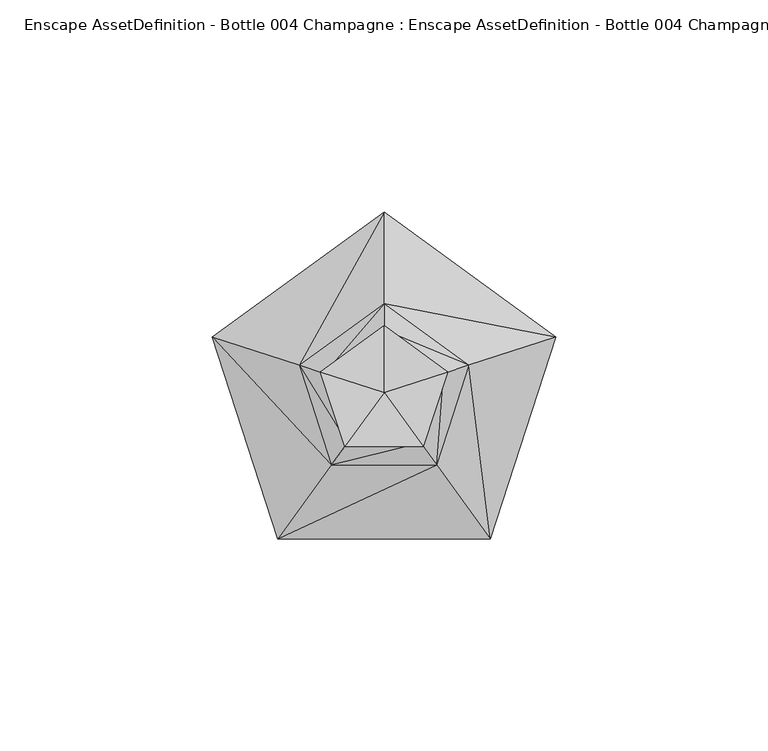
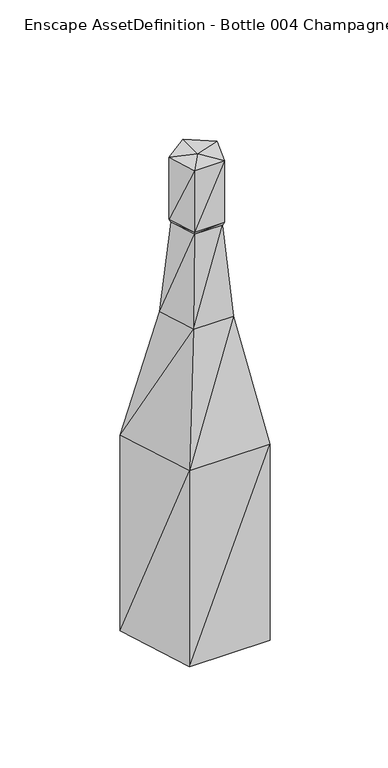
"""IFC4 building model written with IfcOpenShell, lengths in millimetres: geographic element geometry, Enscape AssetDefinition - Bottle 004 Champagne : Enscape AssetDefinition - Bottle 004 Champagne."""

from ifc_helpers import new_model, si_unit, origin, place, context, project, spatial, faceted_brep, source, transform, mapped, element, save


def enscape_assetdefinition_bottle_004_champagne_enscape_80ddfa5a(model_context):
    return source(origin(), model_context, "Body", "Brep", [
        faceted_brep([(40.4631011, 13.1472657, 0.0), (40.4631011, 13.1472657, 128.461808), (25.0075832, -34.4199762, 0.0), (20.0121906, 6.5023554, 206.3045502), (25.0075832, -34.4199762, 128.461808), (0.0, 42.5454304, 128.461808), (0.0, 21.0420601, 206.3045502), (-25.007572, -34.4199762, 0.0), (0.0, 0.0, 0.0), (0.0, 42.5454304, 0.0), (-40.4631011, 13.1472657, 128.461808), (-20.0121906, 6.5023554, 206.3045502), (-40.4631011, 13.1472657, 0.0), (-25.007572, -34.4199762, 128.461808), (-12.3682134, -17.0233864, 206.3045502), (-8.6649768, -11.9263129, 264.154911), (-14.0202269, 4.5554475, 264.154911), (12.3682134, -17.0233864, 206.3045502), (8.6649768, -11.9263129, 264.154911), (14.0202269, 4.5554475, 264.154911), (9.2590805, -12.7440281, 266.2817538), (14.9815138, 4.8677847, 266.2817538), (0.0, 14.7417421, 264.154911), (0.0, 15.752485, 266.2817538), (-14.9815027, 4.8677847, 266.2817538), (0.0, 15.752485, 306.6919148), (-14.9815027, 4.8677847, 306.6919148), (14.9815138, 4.8677847, 306.6919148), (0.0, 0.0, 306.6919148), (-9.2590805, -12.7440281, 306.6919148), (-9.2590805, -12.7440281, 266.2817538), (9.2590805, -12.7440281, 306.6919148)], [[[0, 1, 2]], [[1, 3, 4]], [[5, 6, 1]], [[2, 1, 4]], [[0, 5, 1]], [[1, 6, 3]], [[2, 4, 7]], [[0, 2, 8]], [[2, 7, 8]], [[9, 5, 0]], [[9, 0, 8]], [[10, 11, 5]], [[9, 10, 5]], [[5, 11, 6]], [[12, 10, 9]], [[12, 9, 8]], [[7, 12, 8]], [[7, 13, 12]], [[7, 4, 13]], [[12, 13, 10]], [[13, 14, 10]], [[10, 14, 11]], [[14, 15, 11]], [[11, 16, 6]], [[11, 15, 16]], [[17, 18, 14]], [[13, 17, 14]], [[14, 18, 15]], [[4, 17, 13]], [[3, 19, 17]], [[4, 3, 17]], [[17, 19, 18]], [[18, 20, 15]], [[19, 21, 18]], [[18, 21, 20]], [[22, 23, 19]], [[3, 22, 19]], [[19, 23, 21]], [[6, 22, 3]], [[16, 24, 22]], [[6, 16, 22]], [[22, 24, 23]], [[23, 25, 21]], [[24, 26, 23]], [[23, 26, 25]], [[21, 27, 20]], [[21, 25, 27]], [[27, 25, 28]], [[25, 26, 28]], [[26, 29, 28]], [[24, 29, 26]], [[30, 29, 24]], [[16, 30, 24]], [[29, 31, 28]], [[30, 31, 29]], [[31, 27, 28]], [[20, 27, 31]], [[20, 31, 30]], [[15, 30, 16]], [[15, 20, 30]]]),
    ])


if __name__ == "__main__":
    model = new_model("IFC4")
    model_context = context("Model", 3, world=origin())
    ifc_project = project(units=[si_unit("LENGTHUNIT", "METRE", prefix="MILLI")], contexts=[model_context])
    site = spatial("IfcSite", under=ifc_project)
    building = spatial("IfcBuilding", under=site)
    placement = place(None, origin())
    enscape_assetdefinition_bottle_004_champagne_enscape_shape = enscape_assetdefinition_bottle_004_champagne_enscape_80ddfa5a(model_context)
    element("IfcGeographicElement", 1, ObjectType="Enscape AssetDefinition - Bottle 004 Champagne : Enscape AssetDefinition - Bottle 004 Champagne", at=placement, inside=building, context=model_context, shape_type="MappedRepresentation", body=[
        mapped(enscape_assetdefinition_bottle_004_champagne_enscape_shape, transform((0.0, 0.0, 0.0), x_axis=(1.0, 0.0, 0.0), y_axis=(0.0, 1.0, 0.0), z_axis=(0.0, 0.0, 1.0))),
    ])
    save(model, "model.ifc")
